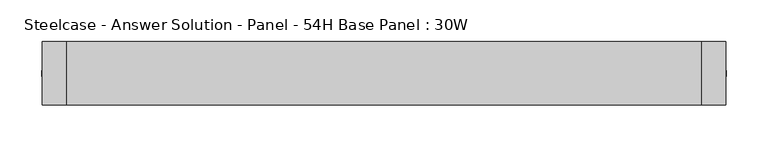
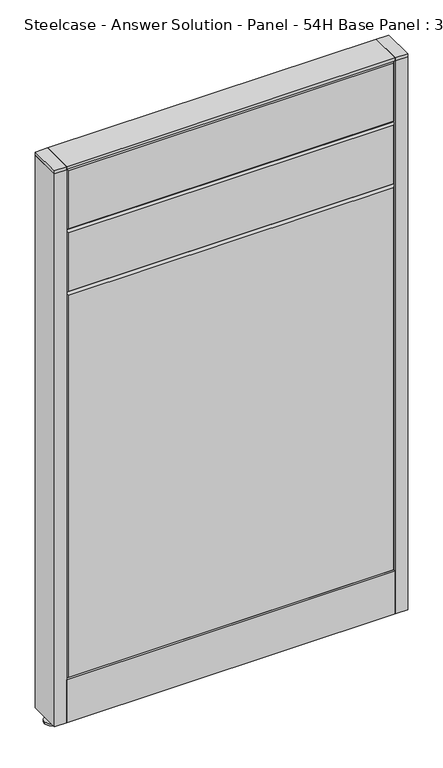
"""IFC4 building model written with IfcOpenShell, lengths in millimetres: furniture geometry, Steelcase - Answer Solution - Panel - 54H Base Panel : 30W."""

from ifc_helpers import new_model, si_unit, point, frame, frame_2d, origin, place, context, project, spatial, polyline, circle_curve, trimmed, segment, composite_curve, outline, extrude, faceted_brep, source, transform, mapped, element, save


def steelcase_answer_solution_panel_54h_base_panel_30w_b32a1648(model_context):
    return source(origin(), model_context, "Body", "SolidModel", [
        extrude(outline(composite_curve([segment(trimmed(circle_curve(frame_2d((395.224, 0.0320214)), 5.08), [point((400.304, 0.0320214))], [point((390.144, 0.0320214))], False, "CARTESIAN"), True, "CONTINUOUS"), segment(trimmed(circle_curve(frame_2d((395.224, 0.0320214)), 5.08), [point((390.144, 0.0320214))], [point((400.304, 0.0320214))], False, "CARTESIAN"), True, "CONTINUOUS")], self_intersect=False)), frame((0.0, 0.0, 5.0799671), z_axis=(0.0, 0.0, 1.0), x_axis=(1.0, 0.0, 0.0)), (0.0, 0.0, 1.0), 10.414),
        extrude(outline(composite_curve([segment(trimmed(circle_curve(frame_2d((395.224, 0.0320214)), 15.24), [point((410.464, 0.0320214))], [point((379.984, 0.0320214))], False, "CARTESIAN"), True, "CONTINUOUS"), segment(trimmed(circle_curve(frame_2d((395.224, 0.0320214)), 15.24), [point((379.984, 0.0320214))], [point((410.464, 0.0320214))], False, "CARTESIAN"), True, "CONTINUOUS")], self_intersect=False)), frame((0.0, 0.0, -3.29e-05), z_axis=(0.0, 0.0, 1.0), x_axis=(1.0, 0.0, 0.0)), (0.0, 0.0, 1.0), 5.08),
        extrude(outline(polyline([(409.575, 38.1320408), (409.575, -38.0679592), (381.0, -38.0679592), (381.0, 38.1320408), (409.575, 38.1320408)])), frame((0.0, 0.0, 1370.6348), z_axis=(0.0, 0.0, 1.0), x_axis=(1.0, 0.0, 0.0)), (0.0, 0.0, 1.0), 7.3151671),
        extrude(outline(polyline([(409.575, 38.1320408), (409.575, -38.0679592), (381.0, -38.0679592), (381.0, 38.1320408), (409.575, 38.1320408)])), frame((0.0, 0.0, 15.4939671), z_axis=(0.0, 0.0, 1.0), x_axis=(1.0, 0.0, 0.0)), (0.0, 0.0, 1.0), 1355.1408329),
        extrude(outline(composite_curve([segment(trimmed(circle_curve(frame_2d((-395.224, 0.0320214)), 5.08), [point((-400.304, 0.0320214))], [point((-390.144, 0.0320214))], False, "CARTESIAN"), True, "CONTINUOUS"), segment(trimmed(circle_curve(frame_2d((-395.224, 0.0320214)), 5.08), [point((-390.144, 0.0320214))], [point((-400.304, 0.0320214))], False, "CARTESIAN"), True, "CONTINUOUS")], self_intersect=False)), frame((0.0, 0.0, 5.0799671), z_axis=(0.0, 0.0, 1.0), x_axis=(1.0, 0.0, 0.0)), (0.0, 0.0, 1.0), 10.414),
        extrude(outline(composite_curve([segment(trimmed(circle_curve(frame_2d((-395.224, 0.0320214)), 15.24), [point((-410.464, 0.0320214))], [point((-379.984, 0.0320214))], False, "CARTESIAN"), True, "CONTINUOUS"), segment(trimmed(circle_curve(frame_2d((-395.224, 0.0320214)), 15.24), [point((-379.984, 0.0320214))], [point((-410.464, 0.0320214))], False, "CARTESIAN"), True, "CONTINUOUS")], self_intersect=False)), frame((0.0, 0.0, -3.29e-05), z_axis=(0.0, 0.0, 1.0), x_axis=(1.0, 0.0, 0.0)), (0.0, 0.0, 1.0), 5.08),
        extrude(outline(polyline([(-409.575, 38.1320408), (-381.0, 38.1320408), (-381.0, -38.0679592), (-409.575, -38.0679592), (-409.575, 38.1320408)])), frame((0.0, 0.0, 1370.6348), z_axis=(0.0, 0.0, 1.0), x_axis=(1.0, 0.0, 0.0)), (0.0, 0.0, 1.0), 7.3151671),
        extrude(outline(polyline([(-409.575, 38.1320408), (-381.0, 38.1320408), (-381.0, -38.0679592), (-409.575, -38.0679592), (-409.575, 38.1320408)])), frame((0.0, 0.0, 15.4939671), z_axis=(0.0, 0.0, 1.0), x_axis=(1.0, 0.0, 0.0)), (0.0, 0.0, 1.0), 1355.1408329),
        faceted_brep([(-376.174, 38.1635011, 1366.774), (376.174, 38.1635011, 1366.774), (376.174, 38.1635011, 1224.026), (-376.174, 38.1635011, 1224.026), (-381.0, 33.3375011, 1371.6), (-381.0, 33.3375011, 1219.2), (381.0, 33.3375011, 1219.2), (381.0, 33.3375011, 1371.6)], [[[0, 1, 2, 3]], [[4, 5, 6, 7]], [[4, 7, 1, 0]], [[7, 6, 2, 1]], [[6, 5, 3, 2]], [[5, 4, 0, 3]]]),
        faceted_brep([(-376.174, 38.1635011, 1214.374), (376.174, 38.1635011, 1214.374), (376.174, 38.1635011, 1071.626), (-376.174, 38.1635011, 1071.626), (-381.0, 33.3375011, 1219.2), (-381.0, 33.3375011, 1066.8), (381.0, 33.3375011, 1066.8), (381.0, 33.3375011, 1219.2)], [[[0, 1, 2, 3]], [[4, 5, 6, 7]], [[4, 7, 1, 0]], [[7, 6, 2, 1]], [[6, 5, 3, 2]], [[5, 4, 0, 3]]]),
        faceted_brep([(-376.174, 38.1635011, 1061.974), (376.174, 38.1635011, 1061.974), (376.174, 38.1635011, 125.476), (-376.174, 38.1635011, 125.476), (-381.0, 33.3375011, 1066.8), (-381.0, 33.3375011, 120.65), (381.0, 33.3375011, 120.65), (381.0, 33.3375011, 1066.8)], [[[0, 1, 2, 3]], [[4, 5, 6, 7]], [[4, 7, 1, 0]], [[7, 6, 2, 1]], [[6, 5, 3, 2]], [[5, 4, 0, 3]]]),
        faceted_brep([(376.174, -38.1635011, 1366.774), (-376.174, -38.1635011, 1366.774), (-376.174, -38.1635011, 1224.026), (376.174, -38.1635011, 1224.026), (381.0, -33.3375011, 1371.6), (381.0, -33.3375011, 1219.2), (-381.0, -33.3375011, 1219.2), (-381.0, -33.3375011, 1371.6)], [[[0, 1, 2, 3]], [[4, 5, 6, 7]], [[4, 7, 1, 0]], [[7, 6, 2, 1]], [[6, 5, 3, 2]], [[5, 4, 0, 3]]]),
        faceted_brep([(376.174, -38.1635011, 1214.374), (-376.174, -38.1635011, 1214.374), (-376.174, -38.1635011, 1071.626), (376.174, -38.1635011, 1071.626), (381.0, -33.3375011, 1219.2), (381.0, -33.3375011, 1066.8), (-381.0, -33.3375011, 1066.8), (-381.0, -33.3375011, 1219.2)], [[[0, 1, 2, 3]], [[4, 5, 6, 7]], [[4, 7, 1, 0]], [[7, 6, 2, 1]], [[6, 5, 3, 2]], [[5, 4, 0, 3]]]),
        faceted_brep([(376.174, -38.1635011, 1061.974), (-376.174, -38.1635011, 1061.974), (-376.174, -38.1635011, 125.476), (376.174, -38.1635011, 125.476), (381.0, -33.3375011, 1066.8), (381.0, -33.3375011, 120.65), (-381.0, -33.3375011, 120.65), (-381.0, -33.3375011, 1066.8)], [[[0, 1, 2, 3]], [[4, 5, 6, 7]], [[4, 7, 1, 0]], [[7, 6, 2, 1]], [[6, 5, 3, 2]], [[5, 4, 0, 3]]]),
        extrude(outline(polyline([(381.0, 38.1000194), (381.0, -38.1000194), (-381.0, -38.1000194), (-381.0, 38.1000194), (381.0, 38.1000194)])), frame((0.0, 0.0, 1371.6), z_axis=(0.0, 0.0, 1.0), x_axis=(1.0, 0.0, 0.0)), (0.0, 0.0, 1.0), 6.35),
        extrude(outline(polyline([(25.4000011, 119.8575157), (25.4000011, 120.65), (38.1000194, 120.65), (38.1000194, 15.494), (37.3075215, 15.494), (37.3075215, 119.8575157), (25.4000011, 119.8575157)])), frame((-381.0, 0.0, 0.0), z_axis=(1.0, 0.0, 0.0), x_axis=(0.0, 1.0, 0.0)), (0.0, 0.0, 1.0), 762.0),
        extrude(outline(polyline([(-25.4000011, 119.8575157), (-37.3075215, 119.8575157), (-37.3075215, 15.494), (-38.1000194, 15.494), (-38.1000194, 120.65), (-25.4000011, 120.65), (-25.4000011, 119.8575157)])), frame((-381.0, 0.0, 0.0), z_axis=(1.0, 0.0, 0.0), x_axis=(0.0, 1.0, 0.0)), (0.0, 0.0, 1.0), 762.0),
    ])


if __name__ == "__main__":
    model = new_model("IFC4")
    model_context = context("Model", 3, world=origin())
    ifc_project = project(units=[si_unit("LENGTHUNIT", "METRE", prefix="MILLI")], contexts=[model_context])
    site = spatial("IfcSite", under=ifc_project)
    building = spatial("IfcBuilding", under=site)
    placement = place(None, origin())
    steelcase_answer_solution_panel_54h_base_panel_30w_shape = steelcase_answer_solution_panel_54h_base_panel_30w_b32a1648(model_context)
    element("IfcFurniture", 1, ObjectType="Steelcase - Answer Solution - Panel - 54H Base Panel : 30W", at=placement, inside=building, context=model_context, shape_type="MappedRepresentation", body=[
        mapped(steelcase_answer_solution_panel_54h_base_panel_30w_shape, transform((0.0, 0.0, 0.0), x_axis=(1.0, 0.0, 0.0), y_axis=(0.0, 1.0, 0.0), z_axis=(0.0, 0.0, 1.0))),
    ])
    save(model, "model.ifc")
